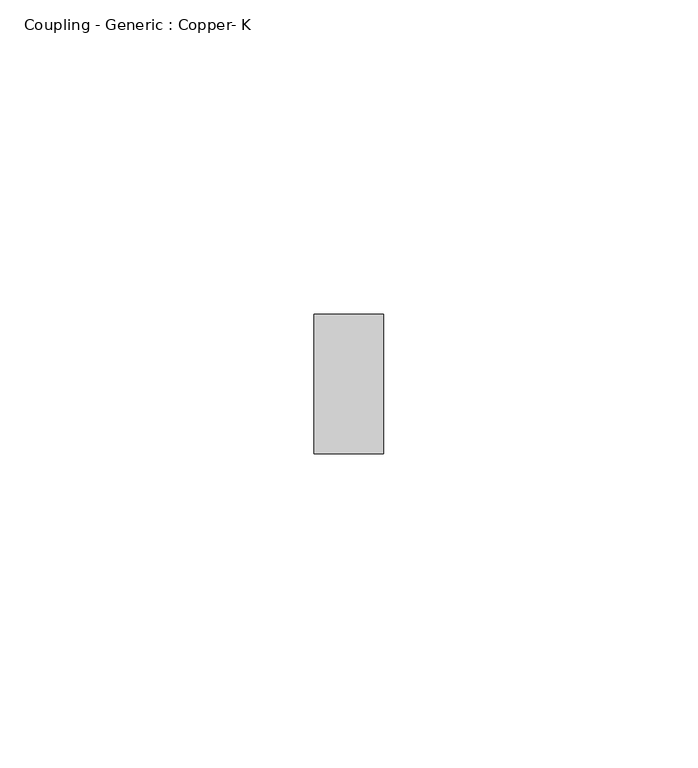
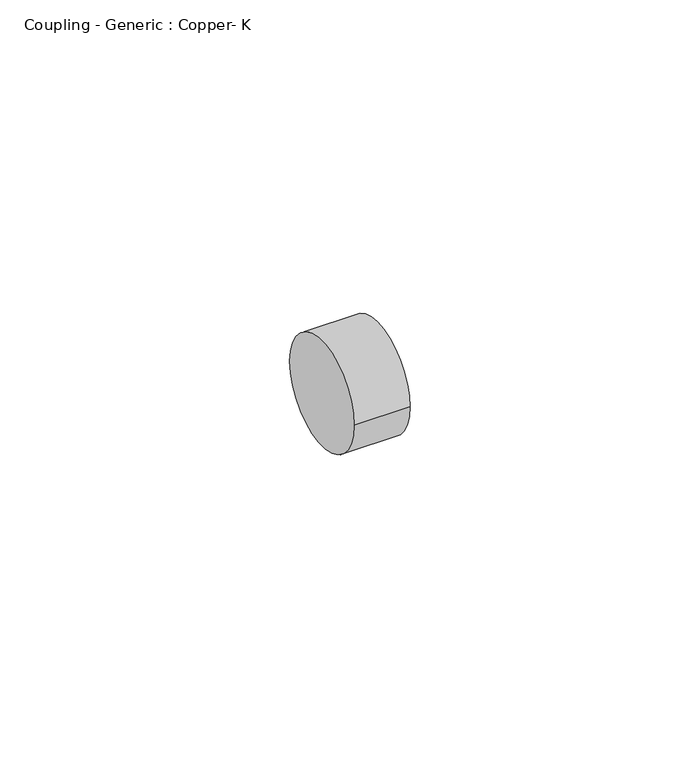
"""IFC4 building model written with IfcOpenShell, lengths in millimetres: pipe fitting geometry, Coupling - Generic : Copper- K."""

from ifc_helpers import new_model, si_unit, point, frame, origin, origin_2d, place, context, project, spatial, circle_curve, trimmed, segment, composite_curve, outline, extrude, source, transform, mapped, element, save


def coupling_generic_copper_k_1c10cf6c(model_context):
    return source(origin(), model_context, "Body", "SweptSolid", [
        extrude(outline(composite_curve([segment(trimmed(circle_curve(origin_2d(), 11.1125), [point((-11.1125, 0.0))], [point((11.1125, 0.0))], False, "CARTESIAN"), True, "CONTINUOUS"), segment(trimmed(circle_curve(origin_2d(), 11.1125), [point((11.1125, 0.0))], [point((-11.1125, 0.0))], False, "CARTESIAN"), True, "CONTINUOUS")], self_intersect=False)), frame((-5.55625, 0.0, 0.0), z_axis=(1.0, 0.0, 0.0), x_axis=(0.0, 1.0, 0.0)), (0.0, 0.0, 1.0), 11.1125),
    ])


if __name__ == "__main__":
    model = new_model("IFC4")
    model_context = context("Model", 3, world=origin())
    ifc_project = project(units=[si_unit("LENGTHUNIT", "METRE", prefix="MILLI")], contexts=[model_context])
    site = spatial("IfcSite", under=ifc_project)
    building = spatial("IfcBuilding", under=site)
    placement = place(None, origin())
    coupling_generic_copper_k_shape = coupling_generic_copper_k_1c10cf6c(model_context)
    element("IfcPipeFitting", 1, ObjectType="Coupling - Generic : Copper- K", at=placement, inside=building, context=model_context, shape_type="MappedRepresentation", body=[
        mapped(coupling_generic_copper_k_shape, transform((0.0, 0.0, 0.0), x_axis=(1.0, 0.0, 0.0), y_axis=(0.0, 1.0, 0.0), z_axis=(0.0, 0.0, 1.0))),
    ])
    save(model, "model.ifc")
